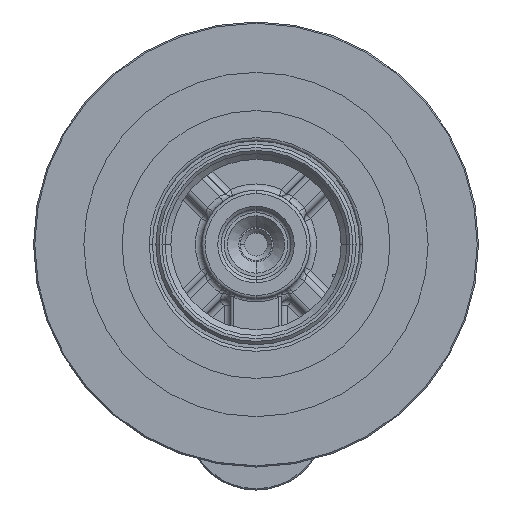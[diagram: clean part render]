
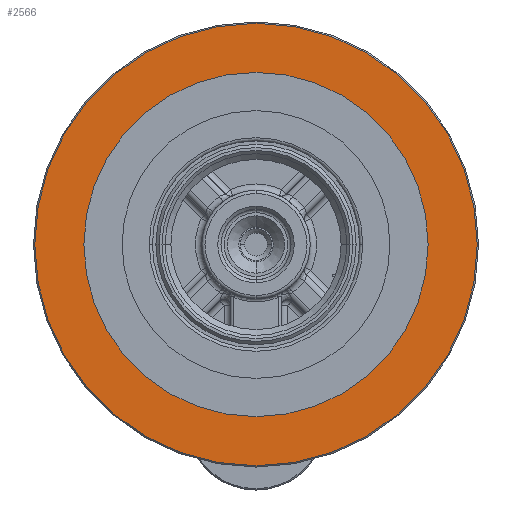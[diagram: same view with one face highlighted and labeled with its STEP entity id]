
A CAD part, left-side view. The second image highlights one B-rep face of the part: STEP entity #2566.
In plain terms, the highlighted planar face has unit normal (-1, 0, 0) as drawn and (0, -1, 0) by its records, which use the part's own axes.
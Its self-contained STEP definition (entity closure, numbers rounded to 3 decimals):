
#1531=CARTESIAN_POINT('',(0.,-8.5,0.));
#1532=DIRECTION('',(0.,-1.,0.));
#1533=DIRECTION('',(1.,0.,0.));
#1534=AXIS2_PLACEMENT_3D('',#1531,#1532,#1533);
#1536=CARTESIAN_POINT('',(0.,-8.5,0.));
#1537=DIRECTION('',(0.,-1.,0.));
#1538=DIRECTION('',(-1.,0.,0.));
#1539=AXIS2_PLACEMENT_3D('',#1536,#1537,#1538);
#1541=CARTESIAN_POINT('',(0.,-8.5,0.));
#1542=DIRECTION('',(0.,1.,0.));
#1543=DIRECTION('',(-1.,0.,0.));
#1544=AXIS2_PLACEMENT_3D('',#1541,#1542,#1543);
#1554=CARTESIAN_POINT('',(0.,-8.5,0.));
#1555=DIRECTION('',(0.,-1.,0.));
#1556=DIRECTION('',(-1.,0.,0.));
#1557=AXIS2_PLACEMENT_3D('',#1554,#1555,#1556);
#1753=CARTESIAN_POINT('',(-27.,-8.5,0.));
#1755=VERTEX_POINT('',#1753);
#1761=CARTESIAN_POINT('',(27.,-8.5,0.));
#1763=VERTEX_POINT('',#1761);
#1889=CARTESIAN_POINT('',(34.7,-8.5,0.));
#1890=CARTESIAN_POINT('',(-34.7,-8.5,0.));
#1891=VERTEX_POINT('',#1889);
#1892=VERTEX_POINT('',#1890);
#2550=CARTESIAN_POINT('',(0.,-8.5,0.));
#2551=DIRECTION('',(0.,1.,0.));
#2552=DIRECTION('',(1.,0.,0.));
#2553=AXIS2_PLACEMENT_3D('',#2550,#2551,#2552);
#2554=PLANE('',#2553);
#2555=ORIENTED_EDGE('',*,*,#2540,.F.);
#2557=ORIENTED_EDGE('',*,*,#2556,.F.);
#2558=EDGE_LOOP('',(#2555,#2557));
#2559=FACE_OUTER_BOUND('',#2558,.F.);
#2561=ORIENTED_EDGE('',*,*,#2560,.F.);
#2563=ORIENTED_EDGE('',*,*,#2562,.T.);
#2564=EDGE_LOOP('',(#2561,#2563));
#2565=FACE_BOUND('',#2564,.F.);
#2566=ADVANCED_FACE('',(#2559,#2565),#2554,.F.);
#1535=CIRCLE('',#1534,34.7);
#1540=CIRCLE('',#1539,34.7);
#1545=CIRCLE('',#1544,27.);
#1558=CIRCLE('',#1557,27.);
#2540=EDGE_CURVE('',#1891,#1892,#1535,.T.);
#2556=EDGE_CURVE('',#1892,#1891,#1540,.T.);
#2560=EDGE_CURVE('',#1755,#1763,#1545,.T.);
#2562=EDGE_CURVE('',#1755,#1763,#1558,.T.);
